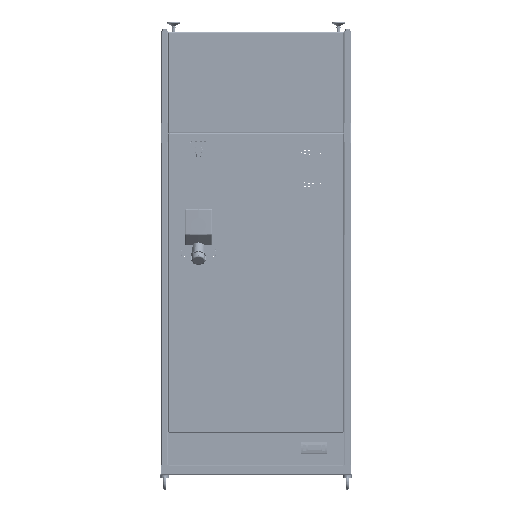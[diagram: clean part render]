
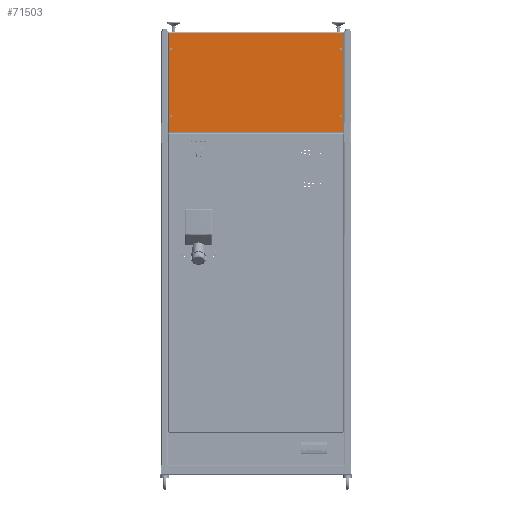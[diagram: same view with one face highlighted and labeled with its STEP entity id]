
A CAD part, front view. The second image highlights one B-rep face of the part: STEP entity #71503.
In plain terms, the highlighted planar face has unit normal (0, -1, 0).
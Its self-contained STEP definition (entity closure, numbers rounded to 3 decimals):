
#3274 = EDGE_CURVE ( 'NONE', #100296, #31751, #266758, .T. ) ;
#6028 = EDGE_LOOP ( 'NONE', ( #116056, #284579 ) ) ;
#10402 = VERTEX_POINT ( 'NONE', #217148 ) ;
#12013 = VECTOR ( 'NONE', #364922, 1000. ) ;
#16392 = VERTEX_POINT ( 'NONE', #336371 ) ;
#18564 = FACE_OUTER_BOUND ( 'NONE', #270233, .T. ) ;
#29540 = DIRECTION ( 'NONE',  ( 0., 0., 1. ) ) ;
#30423 = CARTESIAN_POINT ( 'NONE',  ( 252., 0., 102.8 ) ) ;
#30587 = EDGE_CURVE ( 'NONE', #357322, #10402, #252339, .T. ) ;
#31751 = VERTEX_POINT ( 'NONE', #53153 ) ;
#41727 = CARTESIAN_POINT ( 'NONE',  ( 252., 0., -97.2 ) ) ;
#42988 = ORIENTED_EDGE ( 'NONE', *, *, #214814, .F. ) ;
#49464 = ORIENTED_EDGE ( 'NONE', *, *, #378785, .T. ) ;
#53153 = CARTESIAN_POINT ( 'NONE',  ( -252., 0., -97.2 ) ) ;
#54133 = DIRECTION ( 'NONE',  ( 0., -1., 0. ) ) ;
#62621 = CIRCLE ( 'NONE', #205708, 2.8 ) ;
#64328 = LINE ( 'NONE', #215148, #110510 ) ;
#71503 = ADVANCED_FACE ( 'NONE', ( #236505, #360720, #389237, #205933, #18564 ), #146777, .F. ) ;
#75931 = ORIENTED_EDGE ( 'NONE', *, *, #125410, .T. ) ;
#85120 = AXIS2_PLACEMENT_3D ( 'NONE', #393246, #299582, #87685 ) ;
#87053 = EDGE_LOOP ( 'NONE', ( #383191, #304918 ) ) ;
#87685 = DIRECTION ( 'NONE',  ( 0., 0., 1. ) ) ;
#89444 = VERTEX_POINT ( 'NONE', #151367 ) ;
#100296 = VERTEX_POINT ( 'NONE', #280182 ) ;
#100635 = LINE ( 'NONE', #220895, #311300 ) ;
#101119 = EDGE_CURVE ( 'NONE', #16392, #89444, #325941, .T. ) ;
#108745 = CARTESIAN_POINT ( 'NONE',  ( -257.6, 0., -147.6 ) ) ;
#110510 = VECTOR ( 'NONE', #339378, 1000. ) ;
#116056 = ORIENTED_EDGE ( 'NONE', *, *, #3274, .F. ) ;
#116180 = CARTESIAN_POINT ( 'NONE',  ( 252., 0., 97.2 ) ) ;
#117184 = CARTESIAN_POINT ( 'NONE',  ( -252., 0., -100. ) ) ;
#119870 = EDGE_LOOP ( 'NONE', ( #42988, #394904 ) ) ;
#120692 = DIRECTION ( 'NONE',  ( 0., -1., 0. ) ) ;
#125410 = EDGE_CURVE ( 'NONE', #143724, #16392, #100635, .T. ) ;
#129515 = DIRECTION ( 'NONE',  ( 0., -1., 0. ) ) ;
#142071 = DIRECTION ( 'NONE',  ( 0., 0., -1. ) ) ;
#142454 = VECTOR ( 'NONE', #327927, 1000. ) ;
#143724 = VERTEX_POINT ( 'NONE', #150772 ) ;
#144982 = LINE ( 'NONE', #356915, #12013 ) ;
#146777 = PLANE ( 'NONE',  #85120 ) ;
#150772 = CARTESIAN_POINT ( 'NONE',  ( 257.6, 0., -147.6 ) ) ;
#151367 = CARTESIAN_POINT ( 'NONE',  ( -257.6, 0., 147.6 ) ) ;
#181699 = CIRCLE ( 'NONE', #279116, 2.8 ) ;
#193024 = ORIENTED_EDGE ( 'NONE', *, *, #358564, .T. ) ;
#193045 = DIRECTION ( 'NONE',  ( 0., -1., 0. ) ) ;
#194045 = VERTEX_POINT ( 'NONE', #342252 ) ;
#197025 = AXIS2_PLACEMENT_3D ( 'NONE', #358030, #229803, #142071 ) ;
#197343 = EDGE_CURVE ( 'NONE', #262482, #293994, #62621, .T. ) ;
#205708 = AXIS2_PLACEMENT_3D ( 'NONE', #341464, #129515, #402527 ) ;
#205933 = FACE_BOUND ( 'NONE', #398910, .T. ) ;
#206733 = AXIS2_PLACEMENT_3D ( 'NONE', #249983, #366239, #337702 ) ;
#207249 = ORIENTED_EDGE ( 'NONE', *, *, #370798, .F. ) ;
#211412 = CIRCLE ( 'NONE', #263409, 2.8 ) ;
#214814 = EDGE_CURVE ( 'NONE', #10402, #357322, #249039, .T. ) ;
#215148 = CARTESIAN_POINT ( 'NONE',  ( -258.729, 0., -147.6 ) ) ;
#217148 = CARTESIAN_POINT ( 'NONE',  ( 252., 0., -102.8 ) ) ;
#220895 = CARTESIAN_POINT ( 'NONE',  ( 257.6, 0., -148.729 ) ) ;
#229803 = DIRECTION ( 'NONE',  ( 0., -1., 0. ) ) ;
#234243 = CARTESIAN_POINT ( 'NONE',  ( 258.729, 0., 147.6 ) ) ;
#236505 = FACE_BOUND ( 'NONE', #6028, .T. ) ;
#243001 = DIRECTION ( 'NONE',  ( 0., 0., 1. ) ) ;
#248261 = DIRECTION ( 'NONE',  ( 0., 0., 1. ) ) ;
#249039 = CIRCLE ( 'NONE', #197025, 2.8 ) ;
#249983 = CARTESIAN_POINT ( 'NONE',  ( 252., 0., -100. ) ) ;
#251803 = CIRCLE ( 'NONE', #362363, 2.8 ) ;
#252339 = CIRCLE ( 'NONE', #206733, 2.8 ) ;
#254126 = EDGE_CURVE ( 'NONE', #31751, #100296, #251803, .T. ) ;
#262482 = VERTEX_POINT ( 'NONE', #30423 ) ;
#263409 = AXIS2_PLACEMENT_3D ( 'NONE', #347867, #193045, #319332 ) ;
#266758 = CIRCLE ( 'NONE', #286185, 2.8 ) ;
#270233 = EDGE_LOOP ( 'NONE', ( #75931, #335063, #193024, #49464 ) ) ;
#277693 = CARTESIAN_POINT ( 'NONE',  ( -252., 0., 100. ) ) ;
#279116 = AXIS2_PLACEMENT_3D ( 'NONE', #342688, #120692, #243001 ) ;
#280182 = CARTESIAN_POINT ( 'NONE',  ( -252., 0., -102.8 ) ) ;
#281955 = DIRECTION ( 'NONE',  ( 0., 0., 1. ) ) ;
#282146 = EDGE_CURVE ( 'NONE', #315686, #194045, #211412, .T. ) ;
#284579 = ORIENTED_EDGE ( 'NONE', *, *, #254126, .F. ) ;
#286185 = AXIS2_PLACEMENT_3D ( 'NONE', #309351, #343967, #248261 ) ;
#288353 = VERTEX_POINT ( 'NONE', #108745 ) ;
#293994 = VERTEX_POINT ( 'NONE', #116180 ) ;
#299582 = DIRECTION ( 'NONE',  ( 0., 1., 0. ) ) ;
#304918 = ORIENTED_EDGE ( 'NONE', *, *, #197343, .F. ) ;
#309351 = CARTESIAN_POINT ( 'NONE',  ( -252., 0., -100. ) ) ;
#311300 = VECTOR ( 'NONE', #281955, 1000. ) ;
#315686 = VERTEX_POINT ( 'NONE', #362854 ) ;
#316317 = DIRECTION ( 'NONE',  ( 0., 0., -1. ) ) ;
#319332 = DIRECTION ( 'NONE',  ( 0., 0., -1. ) ) ;
#325467 = EDGE_CURVE ( 'NONE', #293994, #262482, #181699, .T. ) ;
#325941 = LINE ( 'NONE', #234243, #142454 ) ;
#327927 = DIRECTION ( 'NONE',  ( -1., 0., 0. ) ) ;
#335063 = ORIENTED_EDGE ( 'NONE', *, *, #101119, .T. ) ;
#335728 = AXIS2_PLACEMENT_3D ( 'NONE', #277693, #371387, #316317 ) ;
#336371 = CARTESIAN_POINT ( 'NONE',  ( 257.6, 0., 147.6 ) ) ;
#337484 = ORIENTED_EDGE ( 'NONE', *, *, #282146, .F. ) ;
#337702 = DIRECTION ( 'NONE',  ( 0., 0., -1. ) ) ;
#339378 = DIRECTION ( 'NONE',  ( 1., 0., 0. ) ) ;
#341464 = CARTESIAN_POINT ( 'NONE',  ( 252., 0., 100. ) ) ;
#342252 = CARTESIAN_POINT ( 'NONE',  ( -252., 0., 102.8 ) ) ;
#342688 = CARTESIAN_POINT ( 'NONE',  ( 252., 0., 100. ) ) ;
#343967 = DIRECTION ( 'NONE',  ( 0., -1., 0. ) ) ;
#347867 = CARTESIAN_POINT ( 'NONE',  ( -252., 0., 100. ) ) ;
#356915 = CARTESIAN_POINT ( 'NONE',  ( -257.6, 0., 148.729 ) ) ;
#357322 = VERTEX_POINT ( 'NONE', #41727 ) ;
#358030 = CARTESIAN_POINT ( 'NONE',  ( 252., 0., -100. ) ) ;
#358564 = EDGE_CURVE ( 'NONE', #89444, #288353, #144982, .T. ) ;
#360720 = FACE_BOUND ( 'NONE', #119870, .T. ) ;
#361876 = CIRCLE ( 'NONE', #335728, 2.8 ) ;
#362363 = AXIS2_PLACEMENT_3D ( 'NONE', #117184, #54133, #29540 ) ;
#362854 = CARTESIAN_POINT ( 'NONE',  ( -252., 0., 97.2 ) ) ;
#364922 = DIRECTION ( 'NONE',  ( 0., 0., -1. ) ) ;
#366239 = DIRECTION ( 'NONE',  ( 0., -1., 0. ) ) ;
#370798 = EDGE_CURVE ( 'NONE', #194045, #315686, #361876, .T. ) ;
#371387 = DIRECTION ( 'NONE',  ( 0., -1., 0. ) ) ;
#378785 = EDGE_CURVE ( 'NONE', #288353, #143724, #64328, .T. ) ;
#383191 = ORIENTED_EDGE ( 'NONE', *, *, #325467, .F. ) ;
#389237 = FACE_BOUND ( 'NONE', #87053, .T. ) ;
#393246 = CARTESIAN_POINT ( 'NONE',  ( -260., 0., 150. ) ) ;
#394904 = ORIENTED_EDGE ( 'NONE', *, *, #30587, .F. ) ;
#398910 = EDGE_LOOP ( 'NONE', ( #337484, #207249 ) ) ;
#402527 = DIRECTION ( 'NONE',  ( 0., 0., 1. ) ) ;
